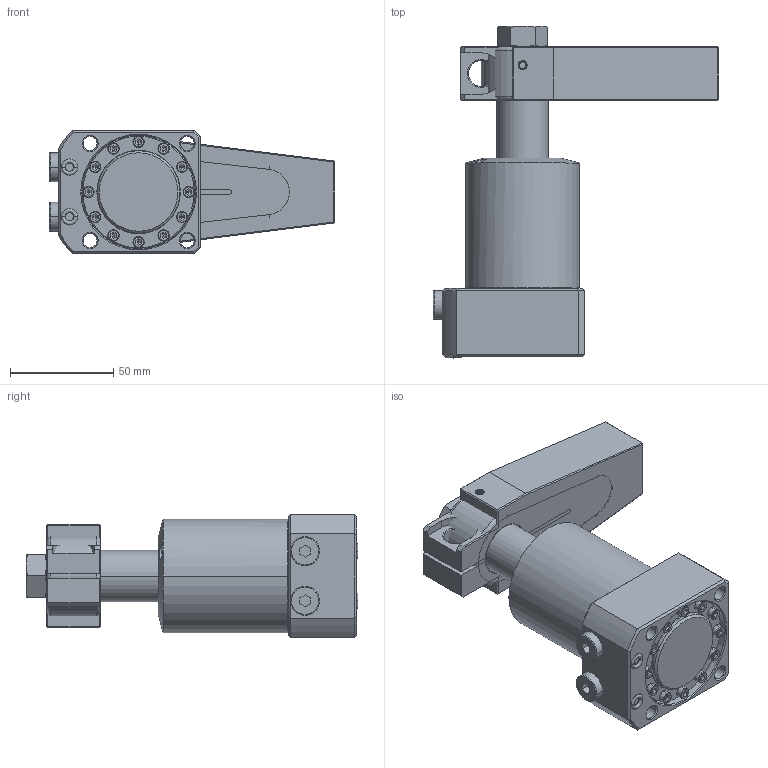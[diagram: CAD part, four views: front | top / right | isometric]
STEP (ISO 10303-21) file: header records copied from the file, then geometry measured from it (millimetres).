
FILE_DESCRIPTION((''),'2;1');
FILE_NAME('SIMP_GENERIC_SWING_CYD_55_ASM','2023-04-16T11:43:02',('Design 2'),(''),'CREO PARAMETRIC BY PTC INC, 2020053','CREO PARAMETRIC BY PTC INC, 2020053','');
FILE_SCHEMA(('CONFIG_CONTROL_DESIGN'));
Length unit declared in the file: millimetre
Products named in the file (16): BODY__; BODY_TOP_FLG___ASM; PISTON__S; PISTON_ASM___ASM; SWINGER_ARM__; SWINGER_ARM_ASM___ASM; CLAMP__; HEXAGON_NUT__; CLAMP_2ND_TYPE__; 1____; 2____; HALDER_SEALING-PLUG-228800_____ASM; G-1-8-CLOSE_PLUGE_; STATIC-O-RING-8X2S_; ISHCS03X12_; SIMP_GENERIC_SWING_CYD_55_ASM
Assembly tree (28 placements, depth 3):
  SIMP_GENERIC_SWING_CYD_55_ASM
    BODY_TOP_FLG___ASM
      BODY__
    PISTON_ASM___ASM
      PISTON__S
    SWINGER_ARM_ASM___ASM
      SWINGER_ARM__
    CLAMP__
    HEXAGON_NUT__
    CLAMP_2ND_TYPE__
    HALDER_SEALING-PLUG-228800_____ASM
      1____
      2____
    G-1-8-CLOSE_PLUGE_  x2
    STATIC-O-RING-8X2S_  x2
    ISHCS03X12_  x12
Bounding box: 138.3 x 160.7 x 60 mm (x, y, z)
Volume: 454948.5 mm3; surface area: 97642.8 mm2
Topology: 24 solids, 24 shells, 1006 faces, 2307 edges, 1365 vertices
Faces by surface type: cylinder 331, plane 317, cone 240, bspline 61, torus 54, sphere 3
Entity records: 30462 total; most frequent: CARTESIAN_POINT 15983, ORIENTED_EDGE 2994, DIRECTION 2824, EDGE_CURVE 1497, AXIS2_PLACEMENT_3D 1070, VERTEX_POINT 915, EDGE_LOOP 702, VECTOR 684
